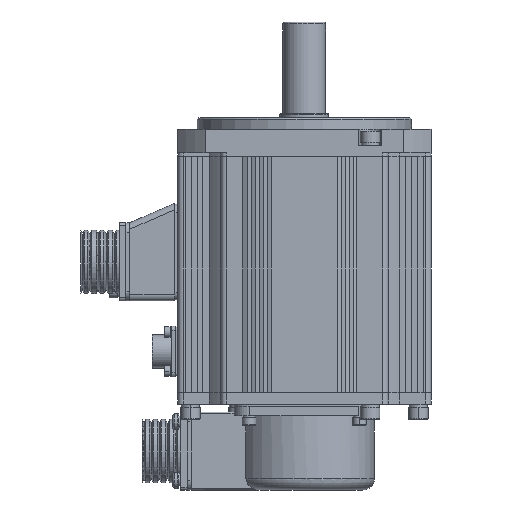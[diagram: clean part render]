
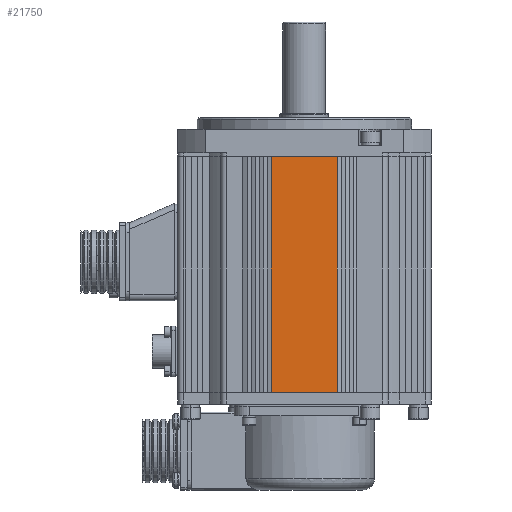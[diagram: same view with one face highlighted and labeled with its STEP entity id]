
A CAD part, front view. The second image highlights one B-rep face of the part: STEP entity #21750.
In plain terms, the highlighted planar face has unit normal (0, -1, 0) as drawn and (0, 1, 0) by its records, which use the part's own axes.
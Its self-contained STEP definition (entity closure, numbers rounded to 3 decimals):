
#14821=DIRECTION('',(0.,0.,-1.));
#14822=VECTOR('',#14821,121.);
#14823=CARTESIAN_POINT('',(-17.,65.,121.));
#14824=LINE('',#14823,#14822);
#14825=DIRECTION('',(1.,0.,0.));
#14826=VECTOR('',#14825,34.);
#14827=CARTESIAN_POINT('',(-17.,65.,0.));
#14828=LINE('',#14827,#14826);
#14833=DIRECTION('',(0.,0.,-1.));
#14834=VECTOR('',#14833,121.);
#14835=CARTESIAN_POINT('',(17.,65.,121.));
#14836=LINE('',#14835,#14834);
#15585=DIRECTION('',(1.,0.,0.));
#15586=VECTOR('',#15585,34.);
#15587=CARTESIAN_POINT('',(-17.,65.,121.));
#15588=LINE('',#15587,#15586);
#16910=CARTESIAN_POINT('',(17.,65.,0.));
#16911=VERTEX_POINT('',#16910);
#16912=CARTESIAN_POINT('',(-17.,65.,0.));
#16913=VERTEX_POINT('',#16912);
#17731=CARTESIAN_POINT('',(-17.,65.,121.));
#17732=VERTEX_POINT('',#17731);
#17733=CARTESIAN_POINT('',(17.,65.,121.));
#17734=VERTEX_POINT('',#17733);
#21737=CARTESIAN_POINT('',(65.,65.,0.));
#21738=DIRECTION('',(0.,1.,0.));
#21739=DIRECTION('',(-1.,0.,0.));
#21740=AXIS2_PLACEMENT_3D('',#21737,#21738,#21739);
#21741=PLANE('',#21740);
#21742=ORIENTED_EDGE('',*,*,#21722,.T.);
#21743=ORIENTED_EDGE('',*,*,#17972,.T.);
#21745=ORIENTED_EDGE('',*,*,#21744,.F.);
#21747=ORIENTED_EDGE('',*,*,#21746,.F.);
#21748=EDGE_LOOP('',(#21742,#21743,#21745,#21747));
#21749=FACE_OUTER_BOUND('',#21748,.F.);
#21750=ADVANCED_FACE('',(#21749),#21741,.T.);
#17972=EDGE_CURVE('',#16913,#16911,#14828,.T.);
#21722=EDGE_CURVE('',#17732,#16913,#14824,.T.);
#21744=EDGE_CURVE('',#17734,#16911,#14836,.T.);
#21746=EDGE_CURVE('',#17732,#17734,#15588,.T.);
